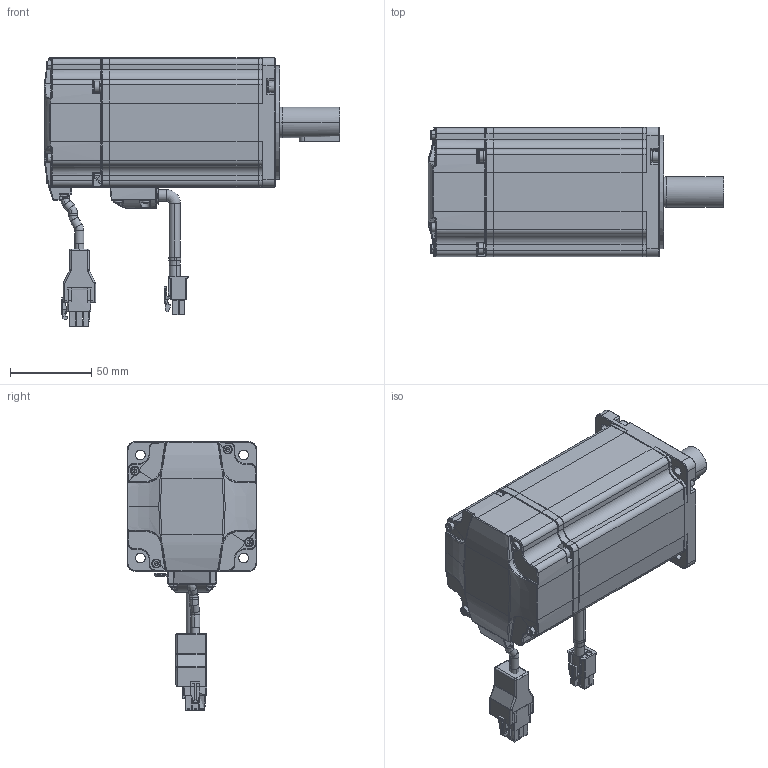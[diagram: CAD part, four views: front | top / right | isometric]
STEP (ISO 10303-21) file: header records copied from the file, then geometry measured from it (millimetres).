
FILE_DESCRIPTION (( 'STEP AP203' ), '1' );
FILE_NAME ('EM3A10A-100-A2-S（永磁交流伺服电机）.STEP', '2019-05-27T01:57:16', ( '' ), ( '' ), 'SwSTEP 2.0', 'SolidWorks 2018', '' );
FILE_SCHEMA (( 'CONFIG_CONTROL_DESIGN' ));
Products named in the file (1): EM3A10A-100-A2-S（永磁交流伺服电机）
Bounding box: 182.5 x 80 x 165.77 mm (x, y, z)
Surface area: 77812.8 mm2 (no closed solid volume)
Topology: 0 solids, 41 shells, 1291 faces, 3388 edges, 2073 vertices
Faces by surface type: plane 492, cylinder 430, cone 132, torus 115, bspline 78, sphere 44
Entity records: 51838 total; most frequent: CARTESIAN_POINT 28094, ORIENTED_EDGE 6077, EDGE_CURVE 3294, B_SPLINE_CURVE_WITH_KNOTS 3228, DIRECTION 2432, VERTEX_POINT 2062, EDGE_LOOP 1412, FACE_OUTER_BOUND 1292
